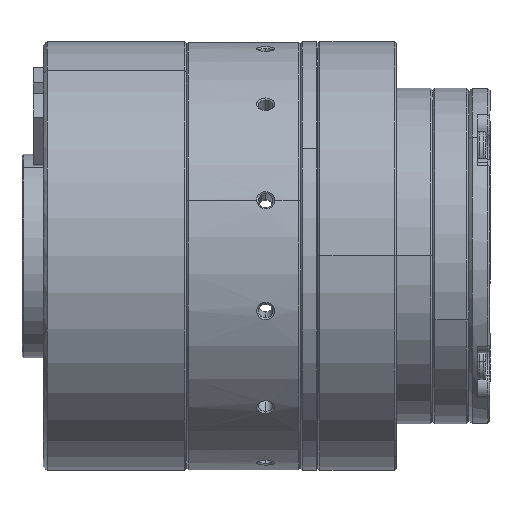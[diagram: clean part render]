
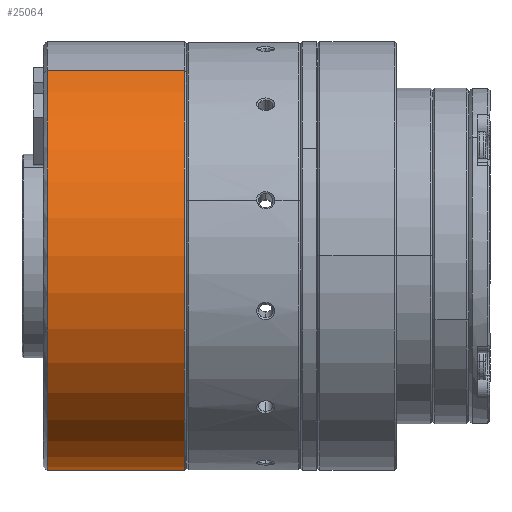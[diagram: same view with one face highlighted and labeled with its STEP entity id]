
A CAD part, top view. The second image highlights one B-rep face of the part: STEP entity #25064.
In plain terms, the highlighted cylindrical face has radius 30 mm (diameter 60 mm), a partial arc.
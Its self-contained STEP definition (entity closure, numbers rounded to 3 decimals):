
#206 = VERTEX_POINT ( 'NONE', #13902 ) ;
#353 = DIRECTION ( 'NONE',  ( -1., 0., 0. ) ) ;
#1017 = AXIS2_PLACEMENT_3D ( 'NONE', #22146, #18603, #6142 ) ;
#1102 = ORIENTED_EDGE ( 'NONE', *, *, #13382, .T. ) ;
#3207 = EDGE_CURVE ( 'NONE', #5602, #20770, #14536, .T. ) ;
#4266 = FACE_OUTER_BOUND ( 'NONE', #14651, .T. ) ;
#5602 = VERTEX_POINT ( 'NONE', #15698 ) ;
#5875 = CARTESIAN_POINT ( 'NONE',  ( -47.5, -25.981, -15. ) ) ;
#6142 = DIRECTION ( 'NONE',  ( 0., 0.866, 0.5 ) ) ;
#6485 = LINE ( 'NONE', #30802, #16893 ) ;
#8206 = EDGE_CURVE ( 'NONE', #5602, #206, #32948, .T. ) ;
#8759 = ORIENTED_EDGE ( 'NONE', *, *, #3207, .T. ) ;
#10505 = AXIS2_PLACEMENT_3D ( 'NONE', #16359, #353, #18752 ) ;
#11015 = ORIENTED_EDGE ( 'NONE', *, *, #32606, .T. ) ;
#13382 = EDGE_CURVE ( 'NONE', #35164, #206, #38900, .T. ) ;
#13902 = CARTESIAN_POINT ( 'NONE',  ( -48.5, -25.981, -15. ) ) ;
#14536 = CIRCLE ( 'NONE', #18361, 30. ) ;
#14651 = EDGE_LOOP ( 'NONE', ( #8759, #11015, #1102, #15204 ) ) ;
#15204 = ORIENTED_EDGE ( 'NONE', *, *, #8206, .F. ) ;
#15583 = CYLINDRICAL_SURFACE ( 'NONE', #10505, 30. ) ;
#15624 = DIRECTION ( 'NONE',  ( 0., 0.866, 0.5 ) ) ;
#15698 = CARTESIAN_POINT ( 'NONE',  ( -29.3, -25.981, -15. ) ) ;
#15793 = DIRECTION ( 'NONE',  ( -1., 0., 0. ) ) ;
#16359 = CARTESIAN_POINT ( 'NONE',  ( -47.5, 0., 0. ) ) ;
#16865 = VECTOR ( 'NONE', #36326, 1000. ) ;
#16893 = VECTOR ( 'NONE', #15793, 1000. ) ;
#18361 = AXIS2_PLACEMENT_3D ( 'NONE', #24127, #21560, #15624 ) ;
#18396 = CARTESIAN_POINT ( 'NONE',  ( -48.5, 25.981, 15. ) ) ;
#18603 = DIRECTION ( 'NONE',  ( 1., 0., 0. ) ) ;
#18752 = DIRECTION ( 'NONE',  ( 0., -0.866, -0.5 ) ) ;
#20770 = VERTEX_POINT ( 'NONE', #25788 ) ;
#21560 = DIRECTION ( 'NONE',  ( -1., 0., 0. ) ) ;
#22146 = CARTESIAN_POINT ( 'NONE',  ( -48.5, 0., 0. ) ) ;
#24127 = CARTESIAN_POINT ( 'NONE',  ( -29.3, 0., 0. ) ) ;
#25064 = ADVANCED_FACE ( 'NONE', ( #4266 ), #15583, .T. ) ;
#25788 = CARTESIAN_POINT ( 'NONE',  ( -29.3, 25.981, 15. ) ) ;
#30802 = CARTESIAN_POINT ( 'NONE',  ( -47.5, 25.981, 15. ) ) ;
#32606 = EDGE_CURVE ( 'NONE', #20770, #35164, #6485, .T. ) ;
#32948 = LINE ( 'NONE', #5875, #16865 ) ;
#35164 = VERTEX_POINT ( 'NONE', #18396 ) ;
#36326 = DIRECTION ( 'NONE',  ( -1., 0., 0. ) ) ;
#38900 = CIRCLE ( 'NONE', #1017, 30. ) ;
